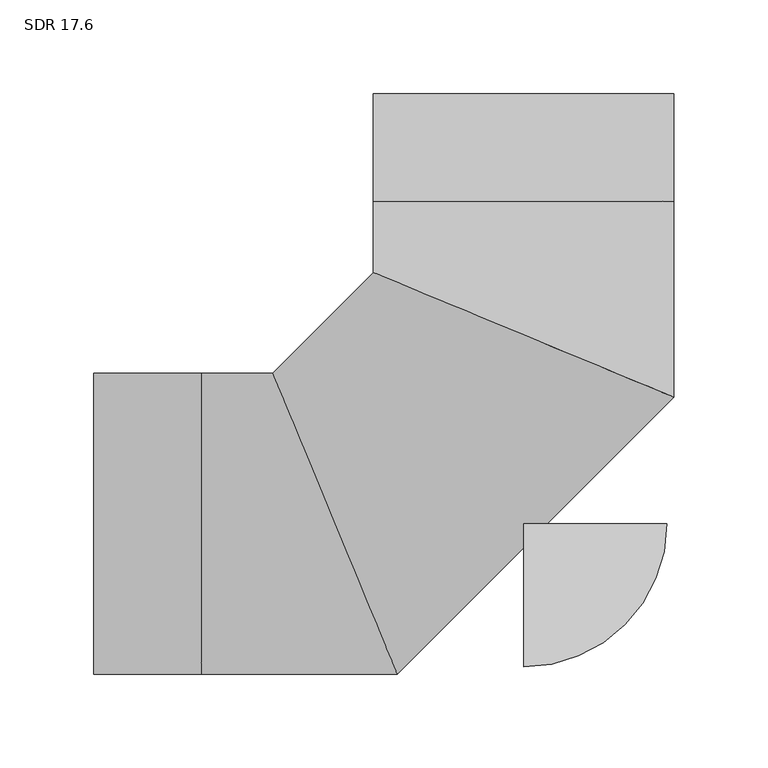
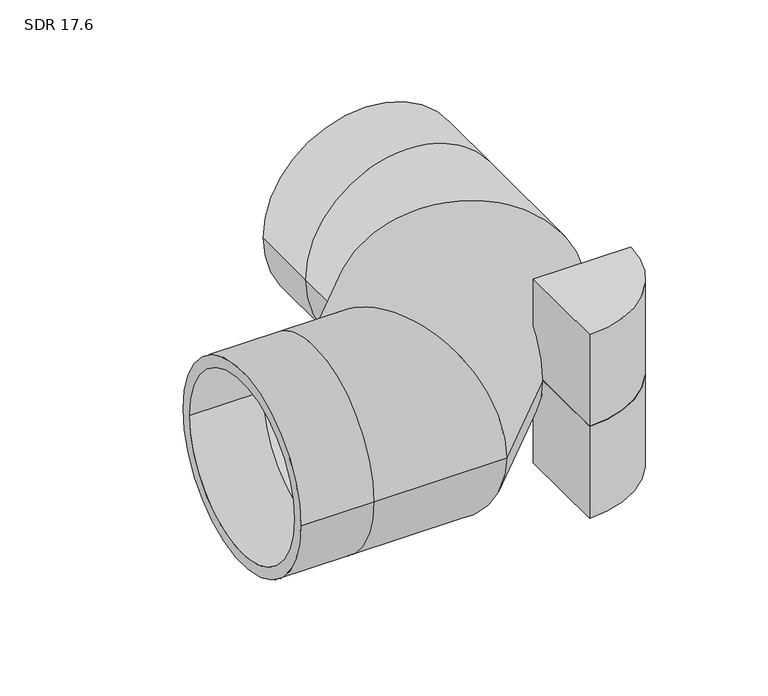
"""IFC4 building model written with IfcOpenShell, lengths in millimetres: pipe fitting geometry, Aquatherm - Elbow Blue BW Segmented : SDR 17.6."""

from ifc_helpers import new_model, si_unit, point, frame, origin, origin_with_axes, origin_2d, place, context, project, spatial, polyline, circle_curve, ellipse_curve, trimmed, segment, composite_curve, outline, extrude, source, transform, mapped, element, save
from ifc_brep_helpers import plane_surface, cylinder_surface, revolved_surface, advanced_brep


def sdr_17_6_e454ea8b(model_context):
    return source(origin(), model_context, "Body", "SolidModel", [
        extrude(outline(composite_curve([segment(polyline([(0.0, -76.2), (0.0, 0.0), (76.2, 0.0)]), True, "CONTINUOUS"), segment(trimmed(circle_curve(origin_2d(), 76.2), [point((76.2, 0.0))], [point((0.0, -76.2))], False, "CARTESIAN"), True, "CONTINUOUS")], self_intersect=False)), frame((0.0, 0.0, -76.2), z_axis=(0.0, 0.0, 1.0), x_axis=(1.0, 0.0, 0.0)), (0.0, 0.0, 1.0), 76.2),
        extrude(outline(composite_curve([segment(trimmed(circle_curve(origin_2d(), 76.2), [point((76.2, 0.0))], [point((0.0, -76.2))], False, "CARTESIAN"), True, "CONTINUOUS"), segment(polyline([(0.0, -76.2), (0.0, 0.0), (76.2, 0.0)]), True, "CONTINUOUS")], self_intersect=False)), origin_with_axes(), (0.0, 0.0, 1.0), 76.2),
        advanced_brep(
        [(-228.6, -80.01, 0.0), (-228.6, 80.01, 0.0), (-228.6, -70.9187617, 0.0), (-228.6, 70.9187617, 0.0), (80.01, 228.6, 0.0), (-80.01, 228.6, 0.0), (70.9187617, 228.6, 0.0), (-70.9187617, 228.6, 0.0), (-171.45, -80.01, 0.0), (-171.45, 80.01, 0.0), (-171.45, -70.9187617, 0.0), (-171.45, 70.9187617, 0.0), (-67.2918576, -80.01, 0.0), (-133.5743119, 80.01, 0.0), (-71.0575718, -70.9187617, 0.0), (-129.8085976, 70.9187617, 0.0), (80.01, 67.2918576, 0.0), (-80.01, 133.5743119, 0.0), (70.9187617, 71.0575718, 0.0), (-70.9187617, 129.8085976, 0.0), (-80.01, 171.45, 0.0), (80.01, 171.45, 0.0), (-70.9187617, 171.45, 0.0), (70.9187617, 171.45, 0.0)],
        [
            (0, 1, circle_curve(frame((-228.6, 0.0, 0.0), z_axis=(-1.0, 0.0, 0.0), x_axis=(0.0, 1.0, 0.0)), 80.01)),
            (1, 0, circle_curve(frame((-228.6, 0.0, 0.0), z_axis=(-1.0, 0.0, 0.0), x_axis=(0.0, 1.0, 0.0)), 80.01)),
            (2, 3, circle_curve(frame((-228.6, 0.0, 0.0), z_axis=(1.0, 0.0, 0.0), x_axis=(0.0, 1.0, 0.0)), 70.9187617)),
            (3, 2, circle_curve(frame((-228.6, 0.0, 0.0), z_axis=(1.0, 0.0, 0.0), x_axis=(0.0, 1.0, 0.0)), 70.9187617)),
            (4, 5, circle_curve(frame((0.0, 228.6, 0.0), z_axis=(0.0, 1.0, 0.0), x_axis=(-1.0, 0.0, 0.0)), 80.01)),
            (5, 4, circle_curve(frame((0.0, 228.6, 0.0), z_axis=(0.0, 1.0, 0.0), x_axis=(-1.0, 0.0, 0.0)), 80.01)),
            (6, 7, circle_curve(frame((0.0, 228.6, 0.0), z_axis=(0.0, -1.0, 0.0), x_axis=(-1.0, 0.0, 0.0)), 70.9187617)),
            (7, 6, circle_curve(frame((0.0, 228.6, 0.0), z_axis=(0.0, -1.0, 0.0), x_axis=(-1.0, 0.0, 0.0)), 70.9187617)),
            (0, 8),
            (8, 9, circle_curve(frame((-171.45, 0.0, 0.0), z_axis=(-1.0, 0.0, 0.0), x_axis=(0.0, 1.0, 0.0)), 80.01)),
            (9, 1),
            (9, 8, circle_curve(frame((-171.45, 0.0, 0.0), z_axis=(-1.0, 0.0, 0.0), x_axis=(0.0, 1.0, 0.0)), 80.01)),
            (2, 10),
            (10, 11, circle_curve(frame((-171.45, 0.0, 0.0), z_axis=(1.0, 0.0, 0.0), x_axis=(0.0, 1.0, 0.0)), 70.9187617)),
            (11, 3),
            (11, 10, circle_curve(frame((-171.45, 0.0, 0.0), z_axis=(1.0, 0.0, 0.0), x_axis=(0.0, 1.0, 0.0)), 70.9187617)),
            (8, 12),
            (12, 13, ellipse_curve(frame((-100.4330847, 0.0, 0.0), z_axis=(-0.9238795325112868, -0.38268343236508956, 0.0), x_axis=(-0.3826834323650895, 0.9238795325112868, 0.0)), 86.6021999, 80.01)),
            (13, 9),
            (13, 12, ellipse_curve(frame((-100.4330847, 0.0, 0.0), z_axis=(-0.9238795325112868, -0.38268343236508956, 0.0), x_axis=(-0.3826834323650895, 0.9238795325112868, 0.0)), 86.6021999, 80.01)),
            (10, 14),
            (14, 15, ellipse_curve(frame((-100.4330847, 0.0, 0.0), z_axis=(0.9238795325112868, 0.38268343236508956, 0.0), x_axis=(0.3826834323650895, -0.9238795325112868, 0.0)), 76.7619145, 70.9187617)),
            (15, 11),
            (15, 14, ellipse_curve(frame((-100.4330847, 0.0, 0.0), z_axis=(0.9238795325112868, 0.38268343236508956, 0.0), x_axis=(0.3826834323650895, -0.9238795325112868, 0.0)), 76.7619145, 70.9187617)),
            (12, 16),
            (16, 17, ellipse_curve(frame((0.0, 100.4330847, 0.0), z_axis=(-0.38268343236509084, -0.9238795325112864, 0.0), x_axis=(-0.9238795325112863, 0.3826834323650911, 0.0)), 86.6021999, 80.01)),
            (17, 13),
            (17, 16, ellipse_curve(frame((0.0, 100.4330847, 0.0), z_axis=(-0.38268343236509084, -0.9238795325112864, 0.0), x_axis=(-0.9238795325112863, 0.3826834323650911, 0.0)), 86.6021999, 80.01)),
            (14, 18),
            (18, 19, ellipse_curve(frame((0.0, 100.4330847, 0.0), z_axis=(0.38268343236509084, 0.9238795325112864, 0.0), x_axis=(0.9238795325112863, -0.3826834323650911, 0.0)), 76.7619145, 70.9187617)),
            (19, 15),
            (19, 18, ellipse_curve(frame((0.0, 100.4330847, 0.0), z_axis=(0.38268343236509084, 0.9238795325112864, 0.0), x_axis=(0.9238795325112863, -0.3826834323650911, 0.0)), 76.7619145, 70.9187617)),
            (20, 21, circle_curve(frame((0.0, 171.45, 0.0), z_axis=(0.0, 1.0, 0.0), x_axis=(-1.0, 0.0, 0.0)), 80.01)),
            (21, 4),
            (5, 20),
            (21, 20, circle_curve(frame((0.0, 171.45, 0.0), z_axis=(0.0, 1.0, 0.0), x_axis=(-1.0, 0.0, 0.0)), 80.01)),
            (22, 23, circle_curve(frame((0.0, 171.45, 0.0), z_axis=(0.0, -1.0, 0.0), x_axis=(-1.0, 0.0, 0.0)), 70.9187617)),
            (23, 6),
            (7, 22),
            (23, 22, circle_curve(frame((0.0, 171.45, 0.0), z_axis=(0.0, -1.0, 0.0), x_axis=(-1.0, 0.0, 0.0)), 70.9187617)),
            (16, 21),
            (20, 17),
            (18, 23),
            (22, 19),
        ],
        [
            plane_surface(frame((-228.6, 0.0, 0.0), z_axis=(-1.0, 0.0, 0.0), x_axis=(0.0, 0.0, 1.0))),
            plane_surface(frame((0.0, 228.6, 0.0), z_axis=(0.0, 1.0, 0.0), x_axis=(0.0, 0.0, 1.0))),
            cylinder_surface(frame((-228.6, 0.0, 0.0), z_axis=(-1.0, 0.0, 0.0), x_axis=(0.0, 1.0, 0.0)), 80.01),
            revolved_surface(polyline([(-171.45, 70.9187617, 0.0), (-228.6, 70.9187617, 0.0)]), (-228.6, 0.0, 0.0), (1.0, 0.0, 0.0)),
            cylinder_surface(frame((-171.45, 0.0, 0.0), z_axis=(-1.0, 0.0, 0.0), x_axis=(0.0, 1.0, 0.0)), 80.01),
            revolved_surface(polyline([(-71.05757178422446, 70.9187617, 0.0), (-171.45, 70.9187617, 0.0)]), (-171.45, 0.0, 0.0), (1.0, 0.0, 0.0)),
            cylinder_surface(frame((-100.4330847, 0.0, 0.0), z_axis=(-0.7071067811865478, -0.7071067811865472, 0.0), x_axis=(-0.7071067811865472, 0.7071067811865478, 0.0)), 80.01),
            revolved_surface(polyline([(-29.375512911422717, 171.3518464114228, 0.0), (-171.3518464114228, 29.375512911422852, 0.0)]), (-100.4330847, 0.0, 0.0), (0.7071067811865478, 0.7071067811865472, 0.0)),
            cylinder_surface(frame((0.0, 171.45, 0.0), z_axis=(0.0, -1.0, 0.0), x_axis=(-1.0, 0.0, 0.0)), 80.01),
            revolved_surface(polyline([(-70.9187617, 228.6, 0.0), (-70.9187617, 171.45, 0.0)]), (0.0, 171.45, 0.0), (0.0, 1.0, 0.0)),
            cylinder_surface(frame((0.0, 100.4330847, 0.0), z_axis=(0.0, -1.0, 0.0), x_axis=(-1.0, 0.0, 0.0)), 80.01),
            revolved_surface(polyline([(-70.9187617, 171.45, 0.0), (-70.9187617, 71.05757178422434, 0.0)]), (0.0, 100.4330847, 0.0), (0.0, 1.0, 0.0)),
        ],
        [
            (0, [[1, 2], [3, 4]]),
            (1, [[5, 6], [7, 8]]),
            (2, [[-1, 9, 10, 11]]),
            (2, [[-2, -11, 12, -9]]),
            (3, [[-3, 13, 14, 15]]),
            (3, [[-4, -15, 16, -13]]),
            (4, [[-10, 17, 18, 19]]),
            (4, [[-12, -19, 20, -17]]),
            (5, [[-14, 21, 22, 23]]),
            (5, [[-16, -23, 24, -21]]),
            (6, [[-18, 25, 26, 27]]),
            (6, [[-20, -27, 28, -25]]),
            (7, [[-22, 29, 30, 31]]),
            (7, [[-24, -31, 32, -29]]),
            (8, [[33, 34, -6, 35]]),
            (8, [[36, -35, -5, -34]]),
            (9, [[37, 38, -8, 39]]),
            (9, [[40, -39, -7, -38]]),
            (10, [[-26, 41, -33, 42]]),
            (10, [[-28, -42, -36, -41]]),
            (11, [[-30, 43, -37, 44]]),
            (11, [[-32, -44, -40, -43]]),
        ],
    ),
    ])


if __name__ == "__main__":
    model = new_model("IFC4")
    model_context = context("Model", 3, world=origin())
    ifc_project = project(units=[si_unit("LENGTHUNIT", "METRE", prefix="MILLI")], contexts=[model_context])
    site = spatial("IfcSite", under=ifc_project)
    building = spatial("IfcBuilding", under=site)
    placement = place(None, origin())
    sdr_17_6_shape = sdr_17_6_e454ea8b(model_context)
    element("IfcPipeFitting", 1, ObjectType="Aquatherm - Elbow Blue BW Segmented : SDR 17.6", at=placement, inside=building, context=model_context, shape_type="MappedRepresentation", body=[
        mapped(sdr_17_6_shape, transform((0.0, 0.0, 0.0), x_axis=(1.0, 0.0, 0.0), y_axis=(0.0, 1.0, 0.0), z_axis=(0.0, 0.0, 1.0))),
    ])
    save(model, "model.ifc")
